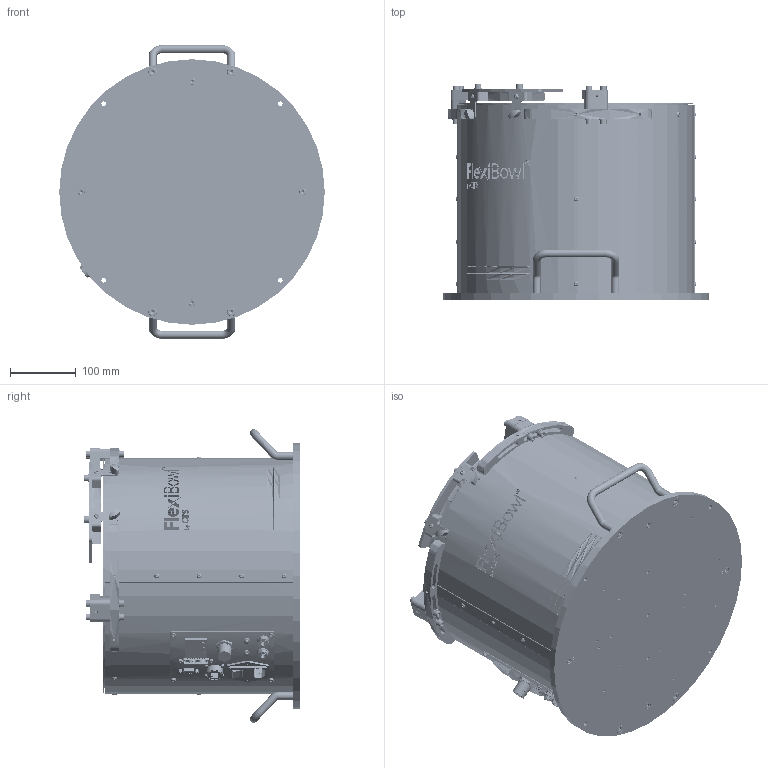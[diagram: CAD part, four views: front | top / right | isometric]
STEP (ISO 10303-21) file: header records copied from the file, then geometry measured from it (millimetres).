
FILE_DESCRIPTION (( 'STEP AP214' ), '1' );
FILE_NAME ('FB350CC.STEP', '2021-09-09T09:03:06', ( '' ), ( '' ), 'SwSTEP 2.0', 'SolidWorks 2020', '' );
FILE_SCHEMA (( 'AUTOMOTIVE_DESIGN' ));
Length unit declared in the file: millimetre
Products named in the file (69): CM000050; CM000669; PD001081; PD000709; CM000026; PD001586; CM000001; CM000032; CM000031; CM000025; CM000008_004; Copia di 39-01-2045^CE000326; PD001362; CM000015_001; PD001737; PD001424; CM000008_002; CM000166; CM000015_002; CM000008; PD001736; CM000027; PD001083; CE000326; CM000170; PD001153; CE000302; PD001584; CM000008_003; PD001360_FB350; CE000327; CM000051; Copia di Led RDY_FLT^CE000326; Copia di connector_amet-15rs^CE000302; CE000325; CM000478; CM000008_005; CE000013; CM000043; CM000169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
Assembly tree (174 placements, depth 3):
  FB350CC
    CM000032  x4
    CM000170  x4
    CM000169  x6
    CM000031  x6
    CM000050  x2
    CM000478  x26
    CM000051  x8
    CM000463  x4
    CM000166  x8
    CM000024  x10
    CM000027  x2
    CM000064  x4
    CM000157  x4
    CM000026  x10
    CM000025  x4
    CM000006  x4
    CM000043  x2
    PD001074
    PD001440  x4
    PD001075
    PD001080
    PD001083
    PD001737
    PD001738
    PD001736  x2
    PD000709
    PD001081
    PD001082
    CM000001  x2
    PD001113
    PD001584  x2
    PD001586  x2
    PD001153
    PD001424  x2
    CM000669  x2
    PD001432  x2
    PD001362  x2
    PD001363  x2
    PD001360_FB350
    CE000007
    CM000015  x2
      CM000015_001
      CM000015_002
    CE000013  x2
    CE000005
    CM000008
      CM000008_001
      CM000008_003  x2
      CM000008_002
      CM000008_004
      CM000008_005
    CE000302
      Copia di connector_a-ds_25_pp-f^CE000302
      Copia di 15 poli femmina^CE000302
      Copia di connector_amet-15rs^CE000302
      Copia di Connettore te 2 poli - Copia^CE000302
      Copia di 39-01-2025^CE000302
    CE000316
    CM000686
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Bounding box: 404 x 328 x 446.76 mm (x, y, z)
Volume: 3670703.2 mm3; surface area: 1879869.9 mm2
Topology: 182 solids, 182 shells, 8685 faces, 22288 edges, 14307 vertices
Faces by surface type: plane 4506, cylinder 2150, cone 1013, bspline 561, torus 415, sphere 40
Entity records: 267375 total; most frequent: CARTESIAN_POINT 76000, ORIENTED_EDGE 33296, DIRECTION 29948, EDGE_CURVE 16648, VERTEX_POINT 11098, AXIS2_PLACEMENT_3D 9999, LINE 9950, VECTOR 9950
